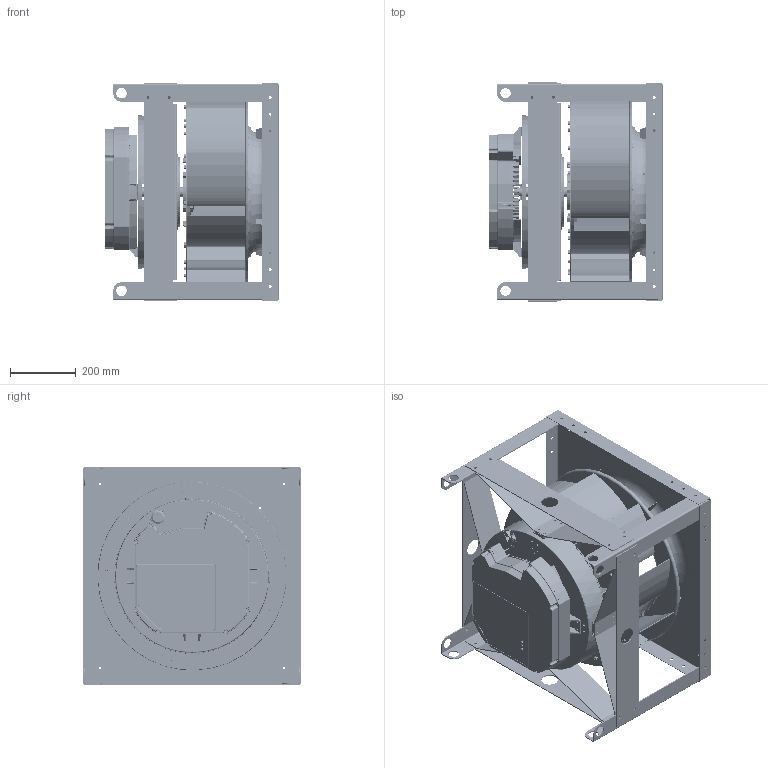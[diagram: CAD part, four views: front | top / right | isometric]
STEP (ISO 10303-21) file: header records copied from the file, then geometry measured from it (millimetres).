
FILE_DESCRIPTION (( 'STEP AP214' ), '1' );
FILE_NAME ('655773.STEP', '2026-06-10T19:39:07', ( '' ), ( '' ), 'SwSTEP 2.0', 'SolidWorks 2023', '' );
FILE_SCHEMA (( 'AUTOMOTIVE_DESIGN' ));
Length unit declared in the file: inch
Products named in the file (19): SXP22 BP_651390; 651587_651587; 655773; 941156_941156; 651586_651586; 941770_BUSHING  TB2012 X 1.125; SXP22 WHEEL ASSY_655589; 925770CS_925770CS; SXP22 FP_651389; SXP22 INLET_651414; 941153_941153; SXP22 BAFFLE_651419; SXP22 BLADE_651387; 941768_941768; 941044_941044; SXPI STRAP_651579; SXP22 INLET ASSY_655579; SXP22 WHEEL WELDMENT_655574; 651590_651590
Assembly tree (83 placements, depth 4):
  655773
    651587_651587
    SXP22 INLET ASSY_655579
      SXP22 INLET_651414
      SXP22 BAFFLE_651419  x4
    SXP22 WHEEL ASSY_655589
      SXP22 WHEEL WELDMENT_655574
        SXP22 FP_651389
        SXP22 BLADE_651387  x9
        SXP22 BP_651390
        941044_941044  x36
      941153_941153  x6
      941156_941156  x6
      941768_941768
    925770CS_925770CS
    651590_651590  x4
    941770_BUSHING  TB2012 X 1.125
    651586_651586  x4
    SXPI STRAP_651579  x4
Bounding box: 527.7 x 663.7 x 663.7 mm (x, y, z)
Volume: 12172589.5 mm3; surface area: 6767864 mm2
Topology: 98 solids, 98 shells, 14423 faces, 35663 edges, 21226 vertices
Faces by surface type: bspline 3800, plane 3656, cylinder 3561, cone 1585, torus 1437, sphere 384
Full cylindrical faces by diameter (mm): 3.962 x10, 4.762 x3, 4.763 x15, 6.35 x36, 7.137 x16, 7.544 x2, 8.738 x84, 9.525 x12, 13.208 x36, 14.097 x6, 19.05 x6, 20.32 x10, 20.637 x6, 31.75 x8, 50.8 x4, 110 x2, 140 x2, 141.224 x1, 270 x1, 477.774 x1, 570.579 x1
Entity records: 446612 total; most frequent: CARTESIAN_POINT 211346, ORIENTED_EDGE 52500, DIRECTION 44692, EDGE_CURVE 26250, AXIS2_PLACEMENT_3D 18548, VERTEX_POINT 15583, EDGE_LOOP 12153, FACE_OUTER_BOUND 11339
